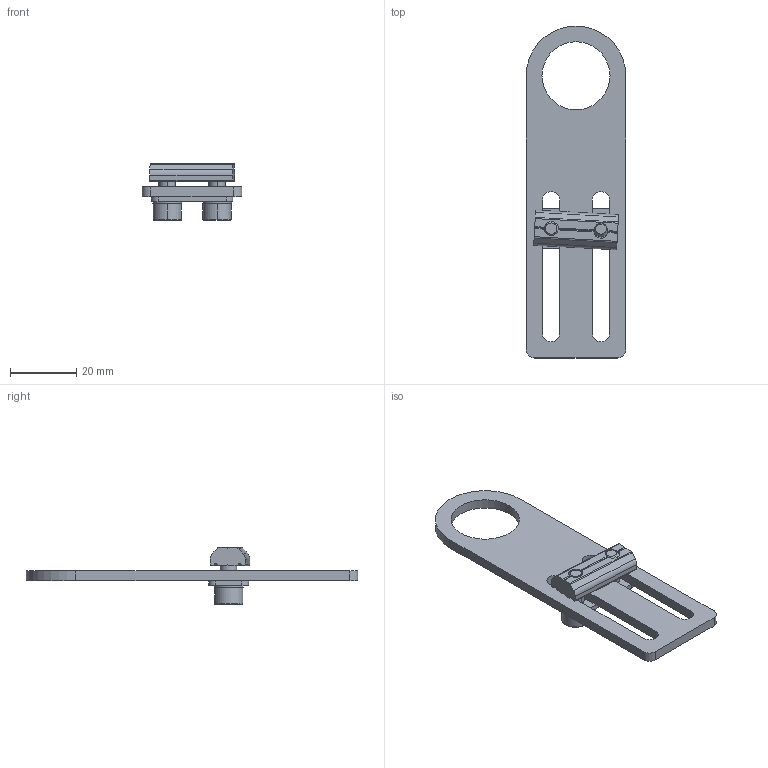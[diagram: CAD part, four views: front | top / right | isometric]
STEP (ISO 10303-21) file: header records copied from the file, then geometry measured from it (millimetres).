
FILE_DESCRIPTION (( 'STEP AP214' ), '1' );
FILE_NAME ('SMBE6-2040.STEP', '2019-11-06T02:11:05', ( '微软用户' ), ( '微软中国' ), 'SwSTEP 2.0', 'SolidWorks 2016', '' );
FILE_SCHEMA (( 'AUTOMOTIVE_DESIGN' ));
Length unit declared in the file: millimetre
Products named in the file (1): SMBE6-2040
Bounding box: 30 x 100 x 17 mm (x, y, z)
Volume: 8766 mm3; surface area: 8489.7 mm2
Topology: 7 solids, 7 shells, 510 faces, 1476 edges, 976 vertices
Faces by surface type: plane 447, cylinder 55, cone 4, bspline 4
Entity records: 22940 total; most frequent: CARTESIAN_POINT 3425, ORIENTED_EDGE 2952, DIRECTION 2924, EDGE_CURVE 1476, AXIS2_PLACEMENT_3D 981, VERTEX_POINT 976, LINE 962, VECTOR 962
